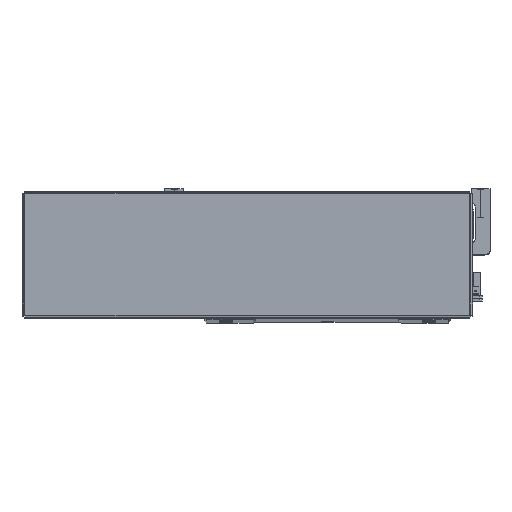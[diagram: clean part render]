
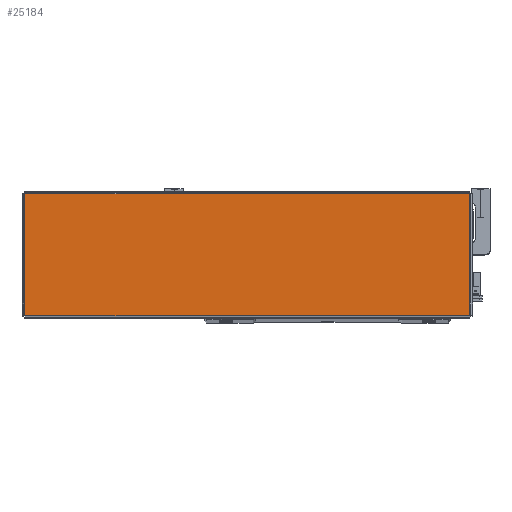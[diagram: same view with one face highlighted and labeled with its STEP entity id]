
A CAD part, top view. The second image highlights one B-rep face of the part: STEP entity #25184.
In plain terms, the highlighted planar face has unit normal (0, 0, 1) as drawn and (0, -1, 0) by its records, which use the part's own axes.
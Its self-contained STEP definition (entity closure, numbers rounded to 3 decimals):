
#547 = DIRECTION ( 'NONE',  ( 0., 0., 1. ) ) ;
#559 = CARTESIAN_POINT ( 'NONE',  ( 154.043, -1.2, 42.263 ) ) ;
#585 = DIRECTION ( 'NONE',  ( -1., 0., 0. ) ) ;
#594 = CARTESIAN_POINT ( 'NONE',  ( 154.013, -1.2, -42.293 ) ) ;
#1051 = CARTESIAN_POINT ( 'NONE',  ( -154.013, -1.2, 42.263 ) ) ;
#1095 = CARTESIAN_POINT ( 'NONE',  ( 154.013, -1.2, 42.263 ) ) ;
#1096 = CARTESIAN_POINT ( 'NONE',  ( 154.013, -1.2, -42.263 ) ) ;
#2929 = FACE_OUTER_BOUND ( 'NONE', #44658, .T. ) ;
#4329 = CARTESIAN_POINT ( 'NONE',  ( -154.043, -1.2, -42.263 ) ) ;
#4353 = DIRECTION ( 'NONE',  ( 1., 0., 0. ) ) ;
#4509 = CARTESIAN_POINT ( 'NONE',  ( -154.013, -1.2, 42.293 ) ) ;
#4519 = DIRECTION ( 'NONE',  ( 0., 0., -1. ) ) ;
#13664 = EDGE_CURVE ( 'NONE', #38167, #38095, #23492, .T. ) ;
#13720 = EDGE_CURVE ( 'NONE', #38119, #38167, #23604, .T. ) ;
#17663 = AXIS2_PLACEMENT_3D ( 'NONE', #48226, #48278, #48259 ) ;
#23338 = ORIENTED_EDGE ( 'NONE', *, *, #29655, .T. ) ;
#23346 = ORIENTED_EDGE ( 'NONE', *, *, #13720, .T. ) ;
#23379 = ORIENTED_EDGE ( 'NONE', *, *, #29661, .T. ) ;
#23492 = LINE ( 'NONE', #4329, #23493 ) ;
#23493 = VECTOR ( 'NONE', #4353, 1000. ) ;
#23588 = VECTOR ( 'NONE', #4519, 1000. ) ;
#23604 = LINE ( 'NONE', #4509, #23588 ) ;
#25184 = ADVANCED_FACE ( 'NONE', ( #2929 ), #48288, .F. ) ;
#26250 = CARTESIAN_POINT ( 'NONE',  ( -154.013, -1.2, -42.263 ) ) ;
#29655 = EDGE_CURVE ( 'NONE', #38095, #38094, #49563, .T. ) ;
#29661 = EDGE_CURVE ( 'NONE', #38094, #38119, #49532, .T. ) ;
#38094 = VERTEX_POINT ( 'NONE', #1095 ) ;
#38095 = VERTEX_POINT ( 'NONE', #1096 ) ;
#38119 = VERTEX_POINT ( 'NONE', #1051 ) ;
#38167 = VERTEX_POINT ( 'NONE', #26250 ) ;
#44658 = EDGE_LOOP ( 'NONE', ( #23338, #23379, #23346, #49411 ) ) ;
#48226 = CARTESIAN_POINT ( 'NONE',  ( 0., -1.2, 0. ) ) ;
#48259 = DIRECTION ( 'NONE',  ( 0., 0., 1. ) ) ;
#48278 = DIRECTION ( 'NONE',  ( 0., 1., 0. ) ) ;
#48288 = PLANE ( 'NONE',  #17663 ) ;
#49411 = ORIENTED_EDGE ( 'NONE', *, *, #13664, .T. ) ;
#49520 = VECTOR ( 'NONE', #547, 1000. ) ;
#49532 = LINE ( 'NONE', #559, #49592 ) ;
#49563 = LINE ( 'NONE', #594, #49520 ) ;
#49592 = VECTOR ( 'NONE', #585, 1000. ) ;
